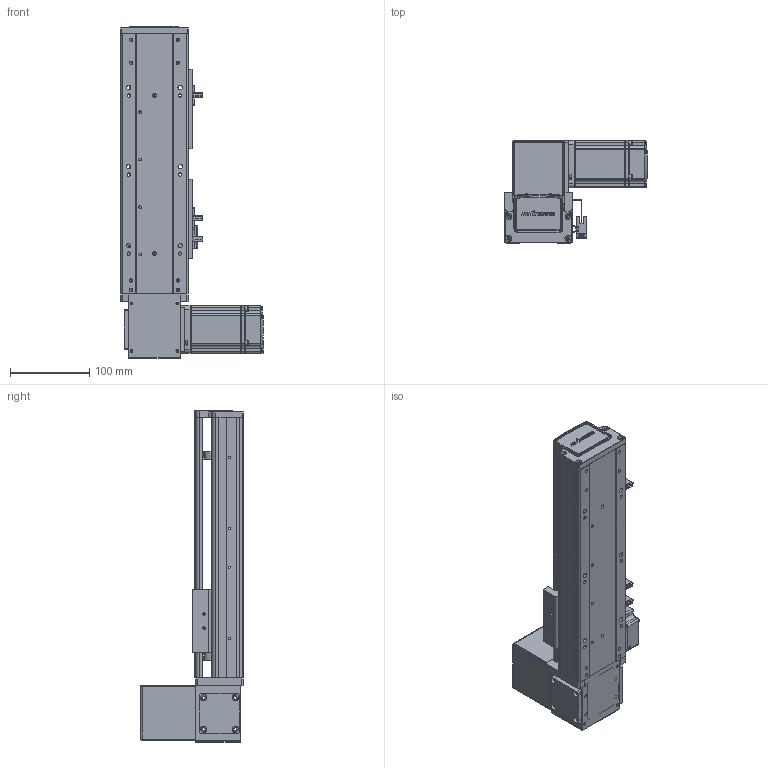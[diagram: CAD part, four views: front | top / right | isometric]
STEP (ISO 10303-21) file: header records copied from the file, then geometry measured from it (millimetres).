
FILE_DESCRIPTION (( 'STEP AP203' ), '1' );
FILE_NAME ('RY80-T-300-UR.SLDASM_150.step', '2021-03-01T02:25:31', ( '盈信电脑' ), ( '东莞市道滘镇水果街19号' ), 'SwSTEP 2.0', 'SolidWorks 2012', '' );
FILE_SCHEMA (( 'CONFIG_CONTROL_DESIGN' ));
Products named in the file (20): 1; RY100-T粣創揤踡裔; RY80-T-上下折同步轮盖板; RY80-T翋肮祭謫裔啣; 滅袉蝶18-10; RY80-T-M4蹟翐2; RY80-T-300-UR.SLDASM_150; RY80-T萇儂假蚾啣; RY80-T肮祭謫奻殏俋欶; RY80-T肮祭湍揤輸2; RY80-T肮祭湍揤輸1; RY80-T粣創揤踡輸; 672嫖萇羲壽假蚾釱; RY80-T-翋肮祭謫釱; 覜茼ん672; RY80俋离覜茼え; RY80-T綴裔啣; RY80-T-300-UR倰第奻裔啣_150; RY80-T肮祭謫臏賑輸; RY80-T-300-UR倰第菁釱_150
Assembly tree (23 placements, depth 2):
  RY80-T-300-UR.SLDASM_150
    RY80-T-300-UR倰第菁釱_150
    RY80-T肮祭謫臏賑輸
    RY80-T-300-UR倰第奻裔啣_150
    RY80-T綴裔啣
    672嫖萇羲壽假蚾釱  x2
    覜茼ん672  x3
    RY80俋离覜茼え
    RY80-T-翋肮祭謫釱
    RY80-T肮祭湍揤輸1
    RY80-T肮祭湍揤輸2
    RY80-T粣創揤踡輸
    滅袉蝶18-10  x2
    RY100-T粣創揤踡裔
    RY80-T翋肮祭謫裔啣
    RY80-T-上下折同步轮盖板
    1
    RY80-T肮祭謫奻殏俋欶
    RY80-T-M4蹟翐2
    RY80-T萇儂假蚾啣
Bounding box: 180 x 130.5 x 420 mm (x, y, z)
Volume: 1092029.7 mm3; surface area: 420035.7 mm2
Topology: 23 solids, 23 shells, 2314 faces, 6326 edges, 4106 vertices
Faces by surface type: plane 1305, cylinder 816, cone 137, bspline 56
Entity records: 72004 total; most frequent: CARTESIAN_POINT 16304, ORIENTED_EDGE 11296, DIRECTION 10830, EDGE_CURVE 5648, VERTEX_POINT 3710, LINE 3646, VECTOR 3646, AXIS2_PLACEMENT_3D 3592
